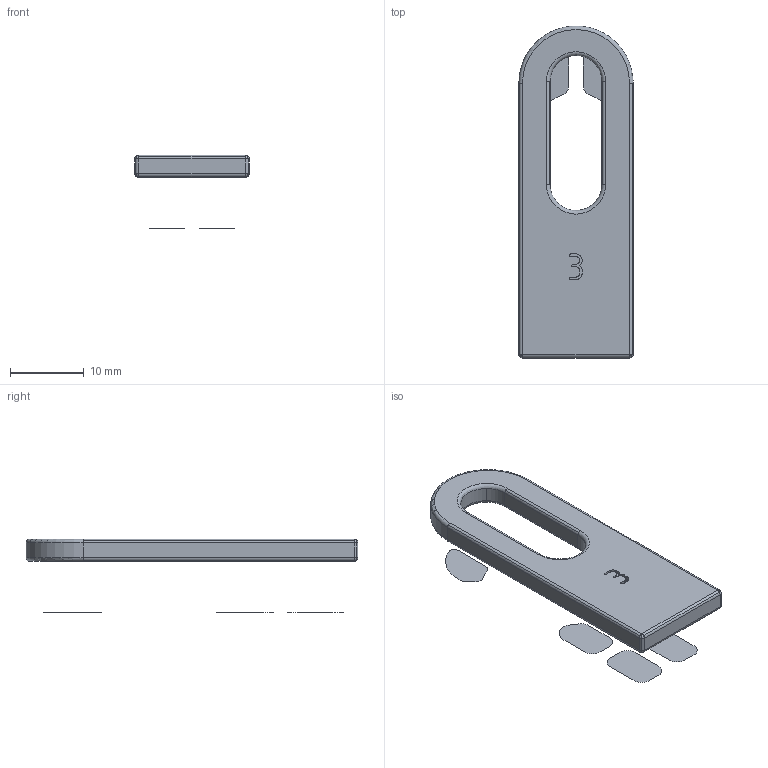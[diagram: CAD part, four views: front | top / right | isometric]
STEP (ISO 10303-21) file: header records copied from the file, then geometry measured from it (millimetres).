
FILE_DESCRIPTION(('STEP AP214'),'1');
FILE_NAME('BF-20240124-cad-shim1_3mm_light-02cbr.stp','2024-01-24T18:04:42',(' '),(' '),'Spatial InterOp 3D',' ',' ');
FILE_SCHEMA(('AUTOMOTIVE_DESIGN { 1 0 10303 214 1 1 1 1 }'));
Length unit declared in the file: metre
Products named in the file (1): Volumenkörper
Bounding box: 15.5 x 44.99 x 10 mm (x, y, z)
Volume: 1457.3 mm3; surface area: 1746 mm2
Topology: 1 solids, 7 shells, 258 faces, 691 edges, 440 vertices
Faces by surface type: cylinder 120, plane 44, extrusion 44, torus 42, sphere 8
Entity records: 8310 total; most frequent: CARTESIAN_POINT 1793, DIRECTION 1389, ORIENTED_EDGE 1314, EDGE_CURVE 683, AXIS2_PLACEMENT_3D 532, VERTEX_POINT 438, VECTOR 325, CIRCLE 314
